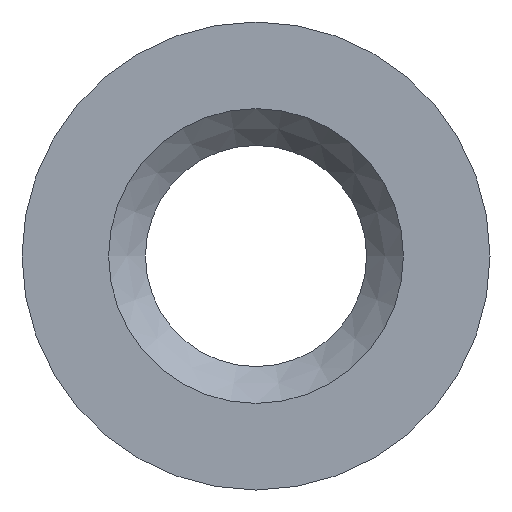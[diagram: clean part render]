
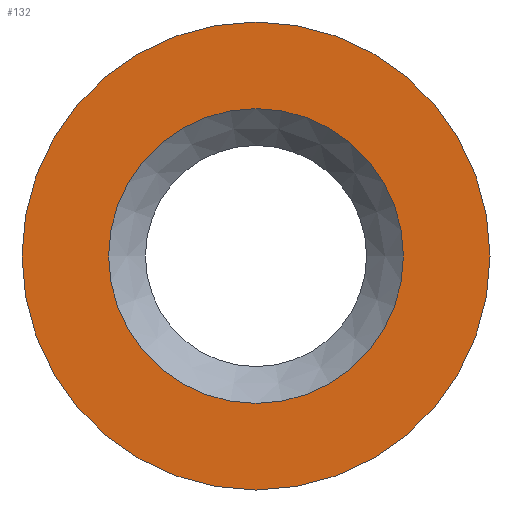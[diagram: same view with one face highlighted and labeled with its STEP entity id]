
A CAD part, front view. The second image highlights one B-rep face of the part: STEP entity #132.
In plain terms, the highlighted planar face has unit normal (0, -1, 0).
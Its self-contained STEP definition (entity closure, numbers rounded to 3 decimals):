
#15=FACE_BOUND('',#33,.T.);
#18=PLANE('',#164);
#24=FACE_OUTER_BOUND('',#32,.T.);
#32=EDGE_LOOP('',(#101));
#33=EDGE_LOOP('',(#102,#103));
#55=CIRCLE('',#165,6.35);
#56=CIRCLE('',#166,4.);
#57=CIRCLE('',#167,4.);
#67=VERTEX_POINT('',#239);
#68=VERTEX_POINT('',#241);
#69=VERTEX_POINT('',#242);
#81=EDGE_CURVE('',#67,#67,#55,.T.);
#82=EDGE_CURVE('',#68,#69,#56,.T.);
#83=EDGE_CURVE('',#69,#68,#57,.T.);
#101=ORIENTED_EDGE('',*,*,#81,.T.);
#102=ORIENTED_EDGE('',*,*,#82,.T.);
#103=ORIENTED_EDGE('',*,*,#83,.T.);
#132=ADVANCED_FACE('',(#24,#15),#18,.T.);
#164=AXIS2_PLACEMENT_3D('',#238,#194,#195);
#165=AXIS2_PLACEMENT_3D('',#240,#196,#197);
#166=AXIS2_PLACEMENT_3D('',#243,#198,#199);
#167=AXIS2_PLACEMENT_3D('',#244,#200,#201);
#194=DIRECTION('center_axis',(0.,-1.,0.));
#195=DIRECTION('ref_axis',(0.,0.,-1.));
#196=DIRECTION('center_axis',(0.,-1.,0.));
#197=DIRECTION('ref_axis',(1.,0.,0.));
#198=DIRECTION('center_axis',(0.,1.,0.));
#199=DIRECTION('ref_axis',(-1.,0.,0.));
#200=DIRECTION('center_axis',(0.,1.,0.));
#201=DIRECTION('ref_axis',(-1.,0.,0.));
#238=CARTESIAN_POINT('Origin',(0.,-17.54,0.));
#239=CARTESIAN_POINT('',(6.35,-17.54,0.));
#240=CARTESIAN_POINT('Origin',(0.,-17.54,0.));
#241=CARTESIAN_POINT('',(4.,-17.54,0.));
#242=CARTESIAN_POINT('',(-4.,-17.54,0.));
#243=CARTESIAN_POINT('Origin',(0.,-17.54,0.));
#244=CARTESIAN_POINT('Origin',(0.,-17.54,0.));
